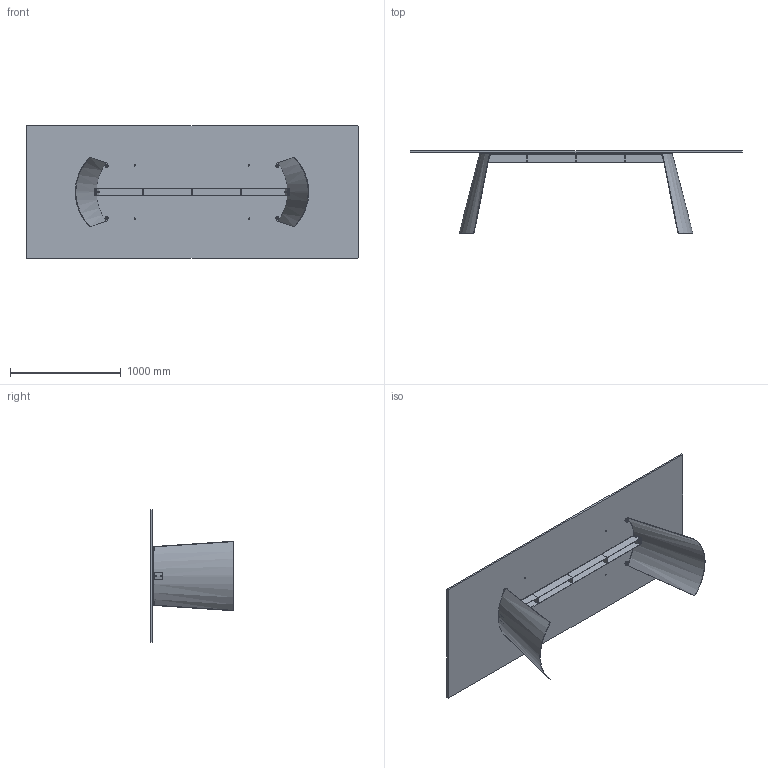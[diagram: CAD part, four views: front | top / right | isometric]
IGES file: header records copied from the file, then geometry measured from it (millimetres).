
Start section: SolidWorks IGES file using analytic representation for surfaces
Global section: file name: Y:\eforma\TECNICO\SOLIDWORKS\E-FORMA\1-TAVOLI\DORIAN\02 parts-rev 01\DN24G.IGS; native system: SolidWorks 2022; preprocessor: SolidWorks 2022; author: eforma.tech; date: 240807.171337; units: millimetre
Bounding box: 3000 x 745 x 1200 mm (x, y, z)
Volume: 60121332.9 mm3; surface area: 10113185.8 mm2
Topology: 47 solids, 47 shells, 618 faces, 1444 edges, 920 vertices
Faces by surface type: revolution 334, plane 266, bspline 18
